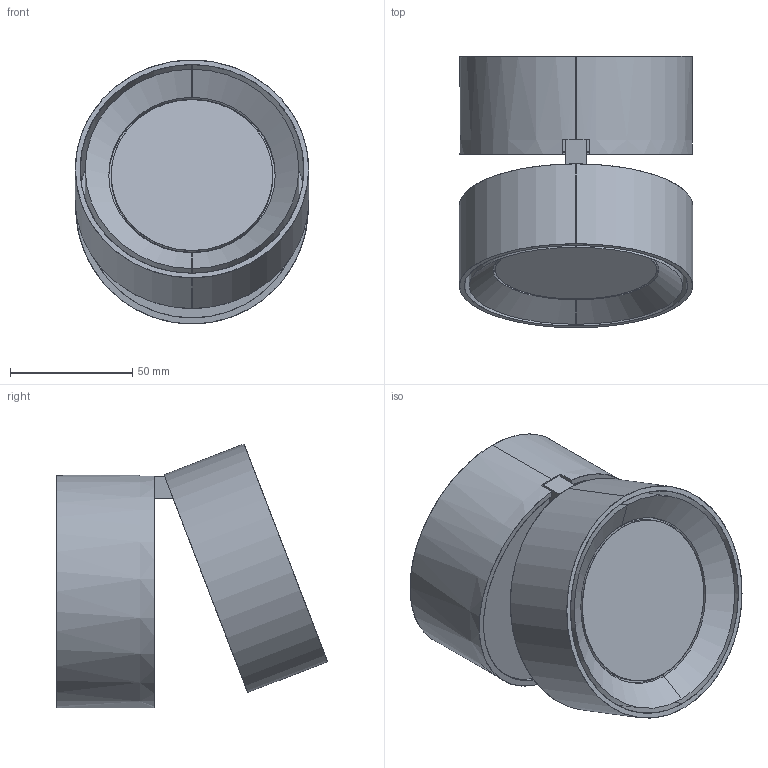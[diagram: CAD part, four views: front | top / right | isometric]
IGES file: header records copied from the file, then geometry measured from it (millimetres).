
Start section: SolidWorks IGES file using analytic representation for surfaces
Global section: file name: D:\3DS EMPRESA\MAKO-P3843-3D\MAKO-P3843-3D.IGS; native system: SolidWorks 2019; preprocessor: SolidWorks 2019; author: Carlos Corella; date: 210723.084530; units: millimetre
Bounding box: 95.29 x 110.81 x 107.83 mm (x, y, z)
Surface area: 165272 mm2 (no closed solid volume)
Topology: 0 solids, 0 shells, 90 faces, 2176 edges, 2176 vertices
Faces by surface type: bspline 56, revolution 34
